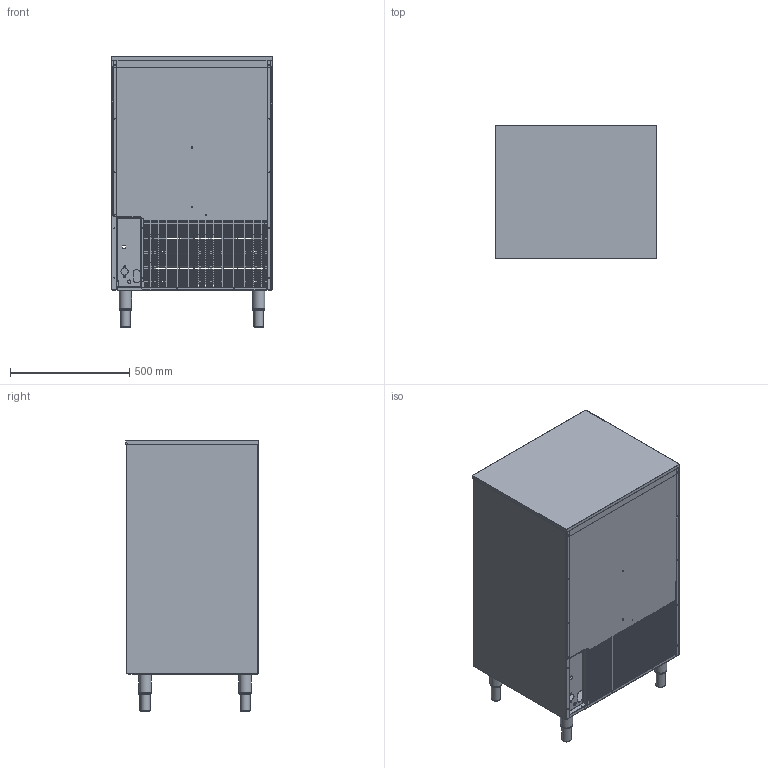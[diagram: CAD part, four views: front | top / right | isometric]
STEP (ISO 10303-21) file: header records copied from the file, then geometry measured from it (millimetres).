
FILE_DESCRIPTION(/* description */ ('Unknown'),/* implementation_level */ '2;1');
FILE_NAME(/* name */ 'NGQ90',/* time_stamp */ '2018-04-23T11:07:06+02:00',/* author */ ('Unknown'),/* organization */ ('Unknown'),/* preprocessor_version */ 'ST-DEVELOPER v16.7',/* originating_system */ 'DEX',/* authorisation */ $);
FILE_SCHEMA (('CONFIG_CONTROL_DESIGN'));
Products named in the file (14): NQ90; Carroceria NQ 90C_oa_0; 41-71+8551_R01; 41-66+8563; 41-63+8556; 41-64+8555; 41-62+8553; 41-62+8554; 41-65+8559; 35-73; 41-70+8561; 32-30; 41-81+8539_oa_1; 41-82+8533
Assembly tree (16 placements, depth 3):
  NQ90
    Carroceria NQ 90C_oa_0
      41-71+8551_R01
      41-66+8563
      41-63+8556
      41-64+8555
      41-62+8553
      41-62+8554
      41-65+8559
      35-73
      41-70+8561
    32-30  x4
    41-81+8539_oa_1
      41-82+8533
Bounding box: 673.4 x 556.7 x 1134.26 mm (x, y, z)
Volume: 4066838.6 mm3; surface area: 7131344.6 mm2
Topology: 14 solids, 14 shells, 3618 faces, 10594 edges, 6908 vertices
Faces by surface type: plane 2549, cylinder 683, bspline 362, torus 16, sphere 4, cone 4
Full cylindrical faces by diameter (mm): 2.7 x32, 3.5 x3, 4.2 x17, 4.25 x30, 4.5 x2, 5 x16, 6 x12, 7 x8, 8 x5, 10 x4, 14 x1, 30 x1, 38 x4, 40 x4, 50 x4, 51 x4
Entity records: 129879 total; most frequent: CARTESIAN_POINT 35759, ORIENTED_EDGE 20636, DIRECTION 17108, EDGE_CURVE 10318, LINE 7600, VECTOR 7600, VERTEX_POINT 6797, EDGE_LOOP 4775
